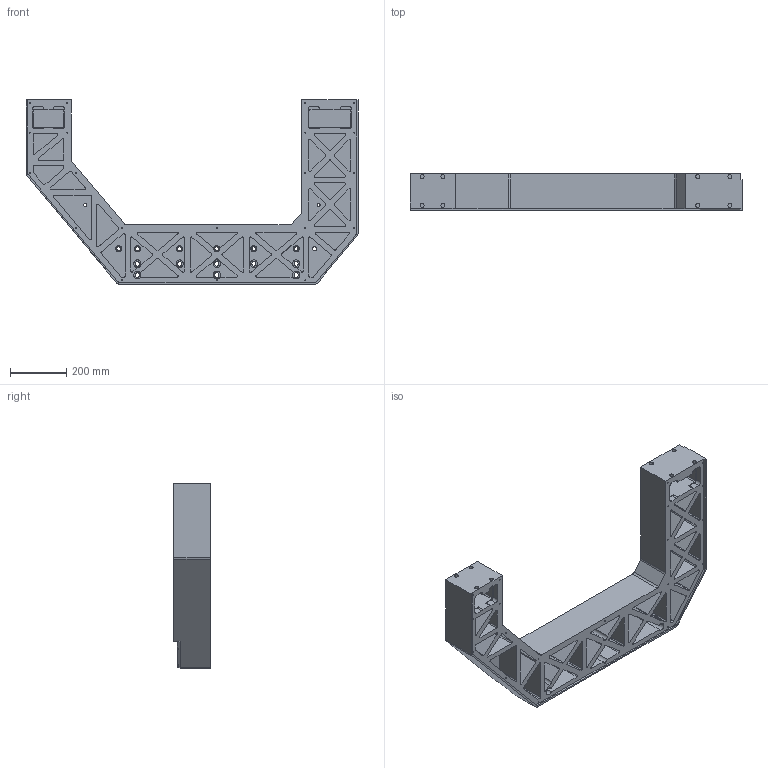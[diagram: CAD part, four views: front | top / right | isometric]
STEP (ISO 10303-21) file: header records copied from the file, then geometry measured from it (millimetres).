
FILE_DESCRIPTION (( 'STEP AP203' ), '1' );
FILE_NAME ('蹬楗.741364.032.STEP', '2025-09-19T09:02:07', ( '' ), ( '' ), 'SwSTEP 2.0', 'SolidWorks 2018', '' );
FILE_SCHEMA (( 'CONFIG_CONTROL_DESIGN' ));
Length unit declared in the file: millimetre
Products named in the file (1): 蹬楗.741364.032
Bounding box: 1180 x 130 x 654.5 mm (x, y, z)
Volume: 28471687.3 mm3; surface area: 2154765.7 mm2
Topology: 1 solids, 2 shells, 648 faces, 1679 edges, 1117 vertices
Faces by surface type: cylinder 339, plane 305, cone 4
Entity records: 20195 total; most frequent: DIRECTION 3664, CARTESIAN_POINT 3444, ORIENTED_EDGE 3350, EDGE_CURVE 1675, AXIS2_PLACEMENT_3D 1341, VERTEX_POINT 1117, VECTOR 982, LINE 982
